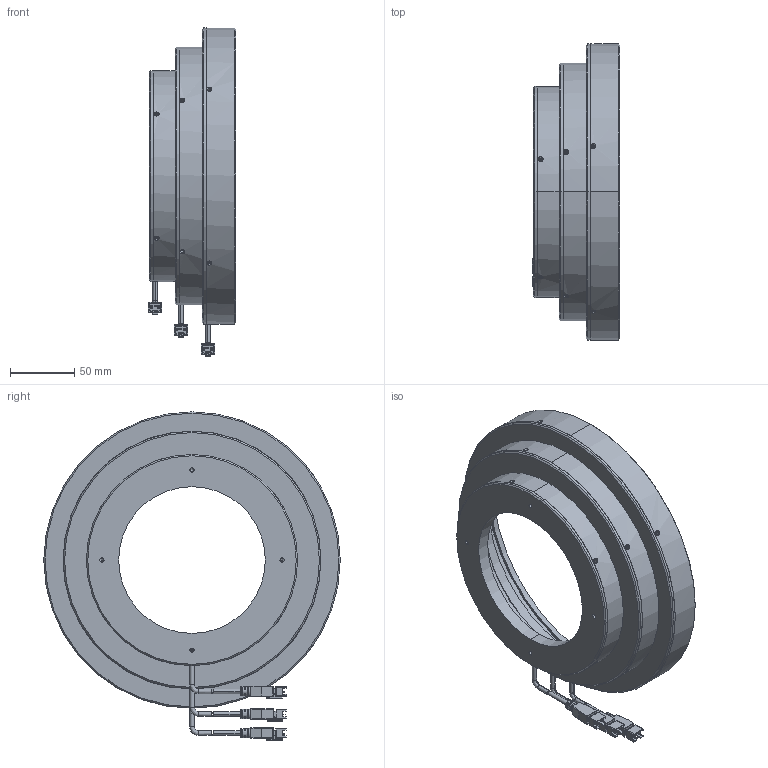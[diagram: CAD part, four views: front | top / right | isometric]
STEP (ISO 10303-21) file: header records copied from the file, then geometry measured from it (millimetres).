
FILE_DESCRIPTION (( 'STEP AP214' ), '1' );
FILE_NAME ('CST-SAI230114-¼òÒ×3DÍ¼.STEP', '2022-07-25T10:19:21', ( '' ), ( '' ), 'SwSTEP 2.0', 'SolidWorks 2018', '' );
FILE_SCHEMA (( 'AUTOMOTIVE_DESIGN' ));
Length unit declared in the file: millimetre
Products named in the file (2): CST-SAI230114-潠眢3D芞
Bounding box: 67.85 x 230.31 x 255.09 mm (x, y, z)
Surface area: 224855.2 mm2 (no closed solid volume)
Topology: 0 solids, 10 shells, 877 faces, 2323 edges, 1413 vertices
Faces by surface type: plane 368, cylinder 310, cone 92, bspline 89, torus 18
Entity records: 41791 total; most frequent: CARTESIAN_POINT 11329, ORIENTED_EDGE 4333, DIRECTION 4192, EDGE_CURVE 2237, AXIS2_PLACEMENT_3D 1458, VERTEX_POINT 1413, LINE 1276, VECTOR 1276
